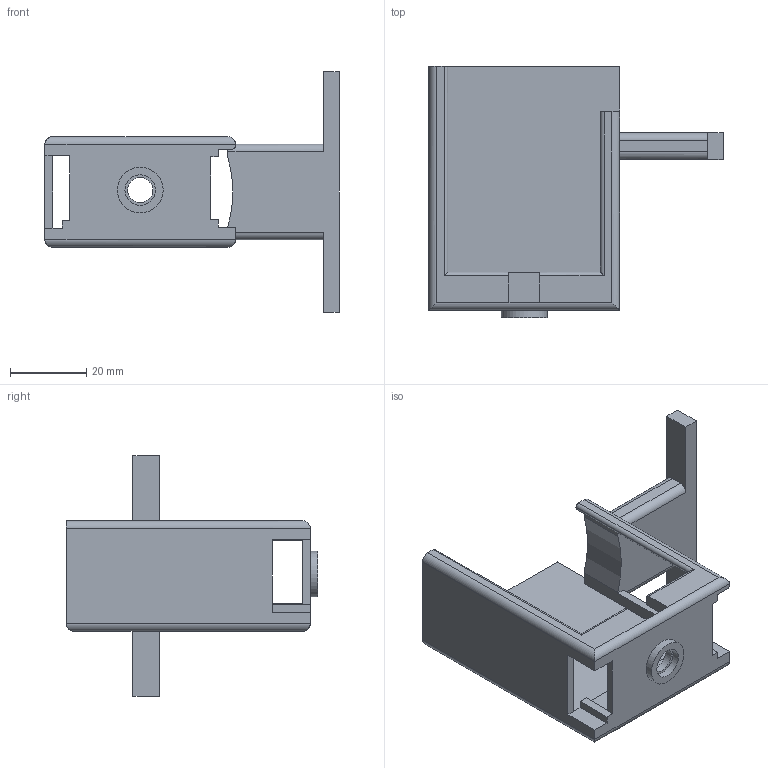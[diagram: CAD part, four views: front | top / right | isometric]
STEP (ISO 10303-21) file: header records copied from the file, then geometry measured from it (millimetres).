
FILE_DESCRIPTION(('Open CASCADE Model'),'2;1');
FILE_NAME('Open CASCADE Shape Model','2026-11-14T14:41:44',('Author'),( 'Open CASCADE'),'Open CASCADE STEP processor 8.0','Open CASCADE 8.0' ,'Unknown');
FILE_SCHEMA(('AUTOMOTIVE_DESIGN { 1 0 10303 214 1 1 1 1 }'));
Length unit declared in the file: millimetre
Products named in the file (1): Open CASCADE STEP translator 8.0 1
Bounding box: 77.15 x 66 x 63 mm (x, y, z)
Volume: 20913.7 mm3; surface area: 17143.7 mm2
Topology: 1 solids, 1 shells, 78 faces, 219 edges, 141 vertices
Faces by surface type: plane 56, cylinder 22
Full cylindrical faces by diameter (mm): 6.6 x1, 8 x1, 12 x1
Entity records: 5821 total; most frequent: CARTESIAN_POINT 1397, DIRECTION 829, LINE 570, VECTOR 570, ORIENTED_EDGE 438, PCURVE 438, DEFINITIONAL_REPRESENTATION 438, EDGE_CURVE 219
